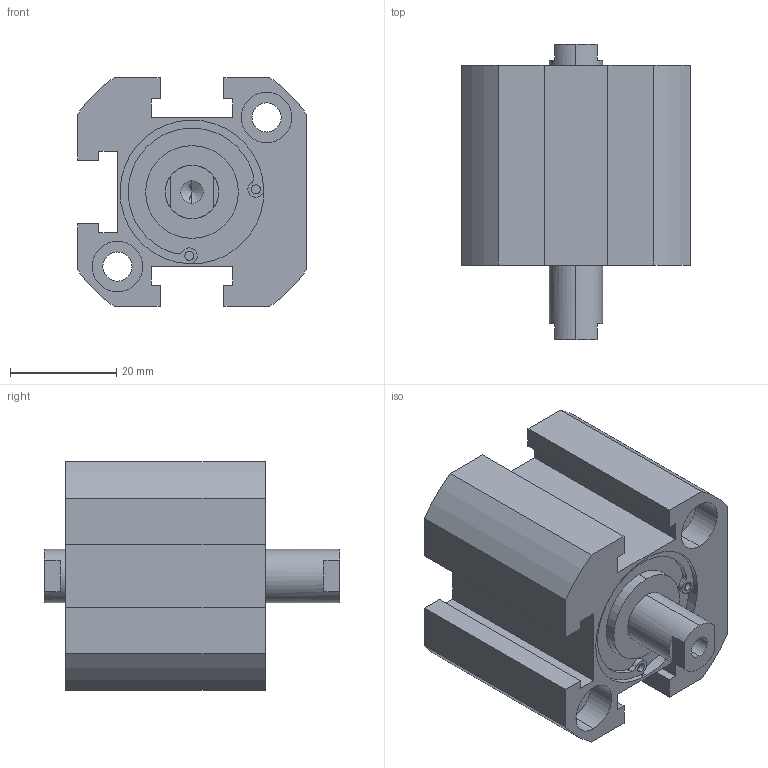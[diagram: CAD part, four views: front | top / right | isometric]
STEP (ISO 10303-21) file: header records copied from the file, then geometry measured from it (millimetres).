
FILE_DESCRIPTION (( 'STEP AP203' ), '1' );
FILE_NAME ('XG#7-25-10.STEP', '2016-05-24T01:57:45', ( '' ), ( '' ), 'SwSTEP 2.0', 'SolidWorks 2014', '' );
FILE_SCHEMA (( 'CONFIG_CONTROL_DESIGN' ));
Length unit declared in the file: millimetre
Products named in the file (1): XG#7-25-10
Bounding box: 43 x 55.5 x 43 mm (x, y, z)
Volume: 51369 mm3; surface area: 14598.5 mm2
Topology: 1 solids, 1 shells, 127 faces, 321 edges, 206 vertices
Faces by surface type: cylinder 65, plane 54, cone 8
Entity records: 3886 total; most frequent: DIRECTION 707, CARTESIAN_POINT 647, ORIENTED_EDGE 626, EDGE_CURVE 313, AXIS2_PLACEMENT_3D 266, VERTEX_POINT 206, VECTOR 175, LINE 175
